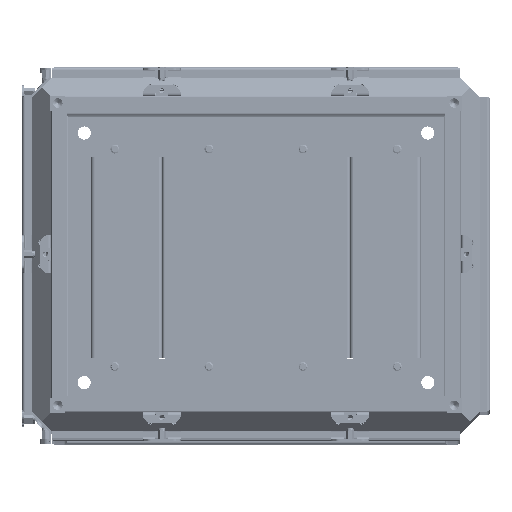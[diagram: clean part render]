
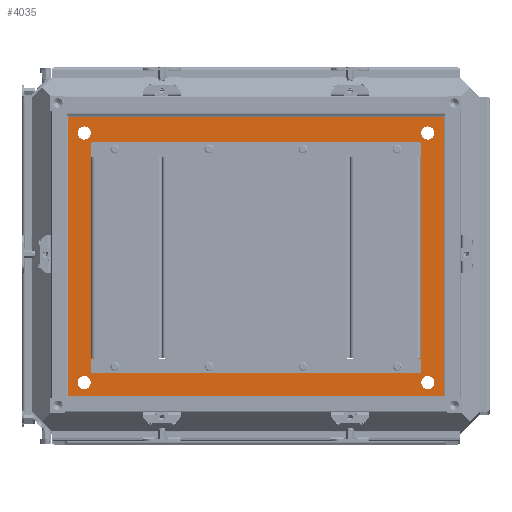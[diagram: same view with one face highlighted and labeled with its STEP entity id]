
A CAD part, top view. The second image highlights one B-rep face of the part: STEP entity #4035.
In plain terms, the highlighted planar face has unit normal (0, 0, 1).
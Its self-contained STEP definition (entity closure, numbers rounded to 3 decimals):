
#4035=ADVANCED_FACE('',(#16399,#16401,#16403,#16405,#16407,#16409),#16411,.F.);
#16399=FACE_BOUND('',#16400,.T.);
#16400=EDGE_LOOP('',(#111245,#111246,#111247,#111248));
#16401=FACE_BOUND('',#16402,.T.);
#16402=EDGE_LOOP('',(#111249,#111250,#111251,#111252));
#16403=FACE_BOUND('',#16404,.T.);
#16404=EDGE_LOOP('',(#111253));
#16405=FACE_BOUND('',#16406,.T.);
#16406=EDGE_LOOP('',(#111254));
#16407=FACE_BOUND('',#16408,.T.);
#16408=EDGE_LOOP('',(#111255));
#16409=FACE_BOUND('',#16410,.T.);
#16410=EDGE_LOOP('',(#111256));
#16411=PLANE('',#16412);
#16412=AXIS2_PLACEMENT_3D('',#16413,#16414,#16415);
#16413=CARTESIAN_POINT('',(0.,0.,-47.5));
#16414=DIRECTION('',(0.,0.,-1.));
#16415=DIRECTION('',(0.,1.,0.));
#111245=ORIENTED_EDGE('',*,*,#168923,.F.);
#111246=ORIENTED_EDGE('',*,*,#168924,.F.);
#111247=ORIENTED_EDGE('',*,*,#168925,.T.);
#111248=ORIENTED_EDGE('',*,*,#168926,.T.);
#111249=ORIENTED_EDGE('',*,*,#168927,.T.);
#111250=ORIENTED_EDGE('',*,*,#168928,.F.);
#111251=ORIENTED_EDGE('',*,*,#168929,.F.);
#111252=ORIENTED_EDGE('',*,*,#168930,.F.);
#111253=ORIENTED_EDGE('',*,*,#168931,.T.);
#111254=ORIENTED_EDGE('',*,*,#168932,.F.);
#111255=ORIENTED_EDGE('',*,*,#168933,.F.);
#111256=ORIENTED_EDGE('',*,*,#168934,.T.);
#168923=EDGE_CURVE('',#198638,#198639,#198640,.F.);
#168924=EDGE_CURVE('',#198641,#198638,#198642,.F.);
#168925=EDGE_CURVE('',#198641,#198643,#198644,.F.);
#168926=EDGE_CURVE('',#198643,#198639,#198645,.F.);
#168927=EDGE_CURVE('',#198646,#198647,#198648,.F.);
#168928=EDGE_CURVE('',#198649,#198647,#198650,.F.);
#168929=EDGE_CURVE('',#198651,#198649,#198652,.F.);
#168930=EDGE_CURVE('',#198646,#198651,#198653,.F.);
#168931=EDGE_CURVE('',#198654,#198654,#198655,.T.);
#168932=EDGE_CURVE('',#198656,#198656,#198657,.T.);
#168933=EDGE_CURVE('',#198658,#198658,#198659,.T.);
#168934=EDGE_CURVE('',#198660,#198660,#198661,.T.);
#198638=VERTEX_POINT('',#250379);
#198639=VERTEX_POINT('',#250380);
#198640=LINE('',#250381,#250382);
#198641=VERTEX_POINT('',#250384);
#198642=LINE('',#250385,#250386);
#198643=VERTEX_POINT('',#250388);
#198644=LINE('',#250389,#250390);
#198645=LINE('',#250392,#250393);
#198646=VERTEX_POINT('',#250395);
#198647=VERTEX_POINT('',#250396);
#198648=LINE('',#250397,#250398);
#198649=VERTEX_POINT('',#250400);
#198650=LINE('',#250401,#250402);
#198651=VERTEX_POINT('',#250404);
#198652=LINE('',#250405,#250406);
#198653=LINE('',#250408,#250409);
#198654=VERTEX_POINT('',#250411);
#198655=CIRCLE('',#250412,7.);
#198656=VERTEX_POINT('',#250416);
#198657=CIRCLE('',#250417,7.);
#198658=VERTEX_POINT('',#250421);
#198659=CIRCLE('',#250422,7.);
#198660=VERTEX_POINT('',#250426);
#198661=CIRCLE('',#250427,7.);
#250379=CARTESIAN_POINT('',(-1.6,1.6,-47.5));
#250380=CARTESIAN_POINT('',(-400.4,1.6,-47.5));
#250381=CARTESIAN_POINT('',(-400.4,1.6,-47.5));
#250382=VECTOR('',#250383,1.);
#250383=DIRECTION('',(1.,0.,0.));
#250384=CARTESIAN_POINT('',(-1.6,300.4,-47.5));
#250385=CARTESIAN_POINT('',(-1.6,1.6,-47.5));
#250386=VECTOR('',#250387,1.);
#250387=DIRECTION('',(0.,1.,0.));
#250388=CARTESIAN_POINT('',(-400.4,300.4,-47.5));
#250389=CARTESIAN_POINT('',(-400.4,300.4,-47.5));
#250390=VECTOR('',#250391,1.);
#250391=DIRECTION('',(1.,0.,0.));
#250392=CARTESIAN_POINT('',(-400.4,1.6,-47.5));
#250393=VECTOR('',#250394,1.);
#250394=DIRECTION('',(0.,1.,0.));
#250395=CARTESIAN_POINT('',(-39.4,39.4,-47.5));
#250396=CARTESIAN_POINT('',(-362.6,39.4,-47.5));
#250397=CARTESIAN_POINT('',(-362.6,39.4,-47.5));
#250398=VECTOR('',#250399,1.);
#250399=DIRECTION('',(1.,0.,0.));
#250400=CARTESIAN_POINT('',(-362.6,262.6,-47.5));
#250401=CARTESIAN_POINT('',(-362.6,39.4,-47.5));
#250402=VECTOR('',#250403,1.);
#250403=DIRECTION('',(0.,1.,0.));
#250404=CARTESIAN_POINT('',(-39.4,262.6,-47.5));
#250405=CARTESIAN_POINT('',(-362.6,262.6,-47.5));
#250406=VECTOR('',#250407,1.);
#250407=DIRECTION('',(1.,0.,0.));
#250408=CARTESIAN_POINT('',(-39.4,262.6,-47.5));
#250409=VECTOR('',#250410,1.);
#250410=DIRECTION('',(0.,-1.,0.));
#250411=CARTESIAN_POINT('',(-18.5,25.5,-47.5));
#250412=AXIS2_PLACEMENT_3D('',#250413,#250414,#250415);
#250413=CARTESIAN_POINT('',(-18.5,18.5,-47.5));
#250414=DIRECTION('',(0.,0.,-1.));
#250415=DIRECTION('',(0.,1.,0.));
#250416=CARTESIAN_POINT('',(-383.5,25.5,-47.5));
#250417=AXIS2_PLACEMENT_3D('',#250418,#250419,#250420);
#250418=CARTESIAN_POINT('',(-383.5,18.5,-47.5));
#250419=DIRECTION('',(0.,0.,1.));
#250420=DIRECTION('',(0.,1.,0.));
#250421=CARTESIAN_POINT('',(-18.5,276.5,-47.5));
#250422=AXIS2_PLACEMENT_3D('',#250423,#250424,#250425);
#250423=CARTESIAN_POINT('',(-18.5,283.5,-47.5));
#250424=DIRECTION('',(0.,0.,1.));
#250425=DIRECTION('',(0.,-1.,0.));
#250426=CARTESIAN_POINT('',(-383.5,276.5,-47.5));
#250427=AXIS2_PLACEMENT_3D('',#250428,#250429,#250430);
#250428=CARTESIAN_POINT('',(-383.5,283.5,-47.5));
#250429=DIRECTION('',(0.,0.,-1.));
#250430=DIRECTION('',(0.,-1.,0.));
